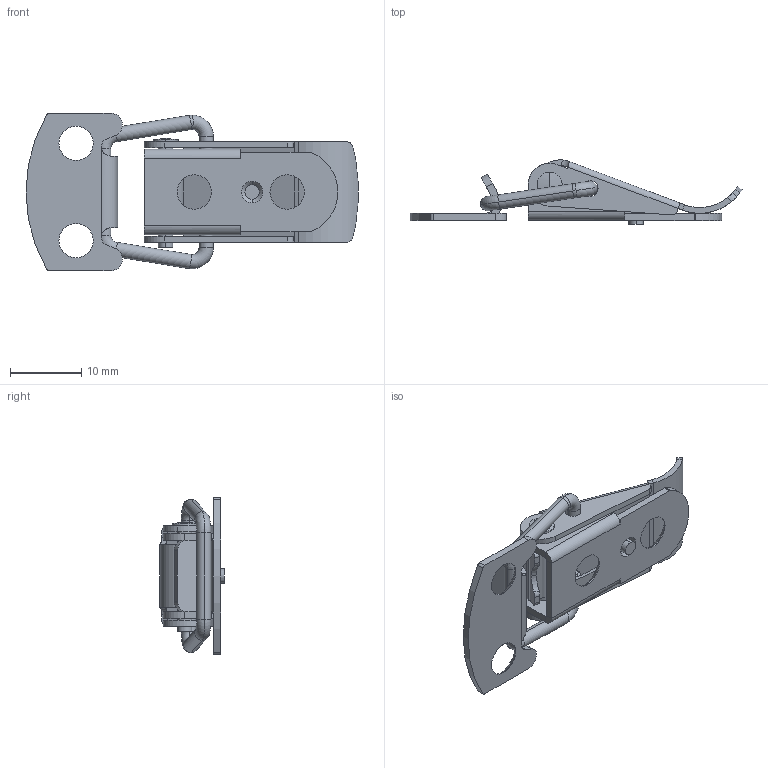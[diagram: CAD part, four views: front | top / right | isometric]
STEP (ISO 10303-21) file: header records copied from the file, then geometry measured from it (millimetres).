
FILE_DESCRIPTION (( 'STEP AP203' ), '1' );
FILE_NAME ('DK619S4C000001.STEP', '2016-07-18T04:17:50', ( 'SkyUser' ), ( 'ChinaSKY' ), 'SwSTEP 2.0', 'SolidWorks 2014', '' );
FILE_SCHEMA (( 'CONFIG_CONTROL_DESIGN' ));
Length unit declared in the file: millimetre
Products named in the file (8): 8SJ.DK619-9.0680; 8SJ.DK619-9.0440; 8SJ.DK619-9.0580; 8SJ.DK619-9.0640; 8SJ.DK619-9.0570; DK619S4C000001; 8SJ.DK619-9.0220; 8SJ.DK619-9.0260
Assembly tree (7 placements, depth 2):
  DK619S4C000001
    8SJ.DK619-9.0220
    8SJ.DK619-9.0260
    8SJ.DK619-9.0680
    8SJ.DK619-9.0440
    8SJ.DK619-9.0580
    8SJ.DK619-9.0640
    8SJ.DK619-9.0570
Bounding box: 46.44 x 8.98 x 22 mm (x, y, z)
Volume: 1320.3 mm3; surface area: 3491.1 mm2
Topology: 8 solids, 8 shells, 409 faces, 1031 edges, 658 vertices
Faces by surface type: plane 178, cylinder 108, bspline 93, cone 18, torus 10, sphere 2
Entity records: 17988 total; most frequent: CARTESIAN_POINT 7779, ORIENTED_EDGE 2058, DIRECTION 1723, EDGE_CURVE 1029, VERTEX_POINT 658, LINE 579, VECTOR 579, AXIS2_PLACEMENT_3D 572
